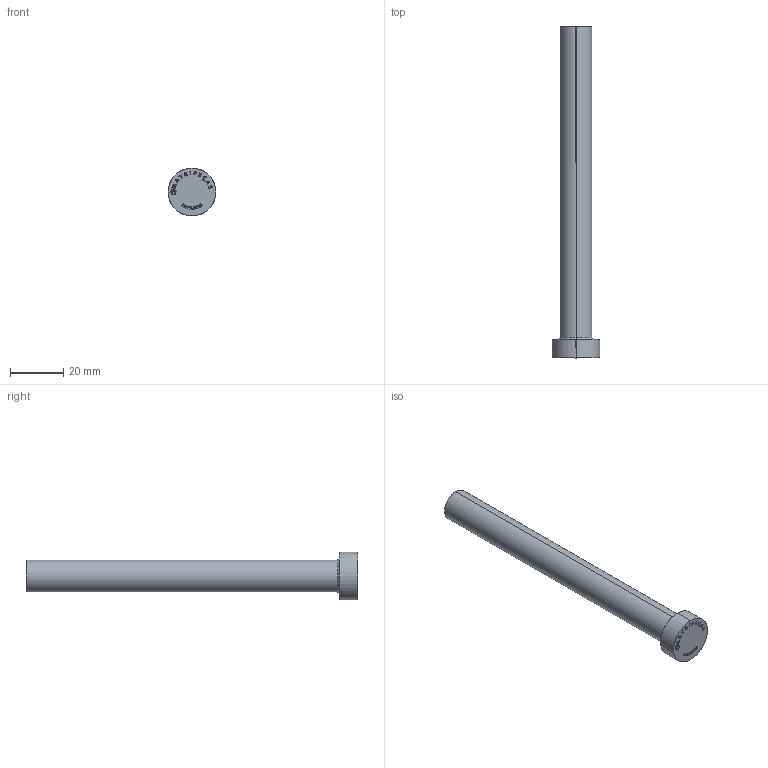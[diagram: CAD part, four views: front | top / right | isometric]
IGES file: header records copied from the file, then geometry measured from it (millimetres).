
Start section: SolidWorks IGES file using analytic representation for surfaces
Global section: file name: D:\Cleonir_particular\Matripeças\Pinos Extradores A DIN 1530\PA12,0125.IGS; native system: SolidWorks 2013; preprocessor: SolidWorks 2013; author: Cleonir; date: 130225.152740; units: millimetre
Bounding box: 18 x 125 x 18 mm (x, y, z)
Surface area: 5394.8 mm2 (no closed solid volume)
Topology: 0 solids, 0 shells, 284 faces, 2934 edges, 2934 vertices
Faces by surface type: bspline 272, revolution 12
